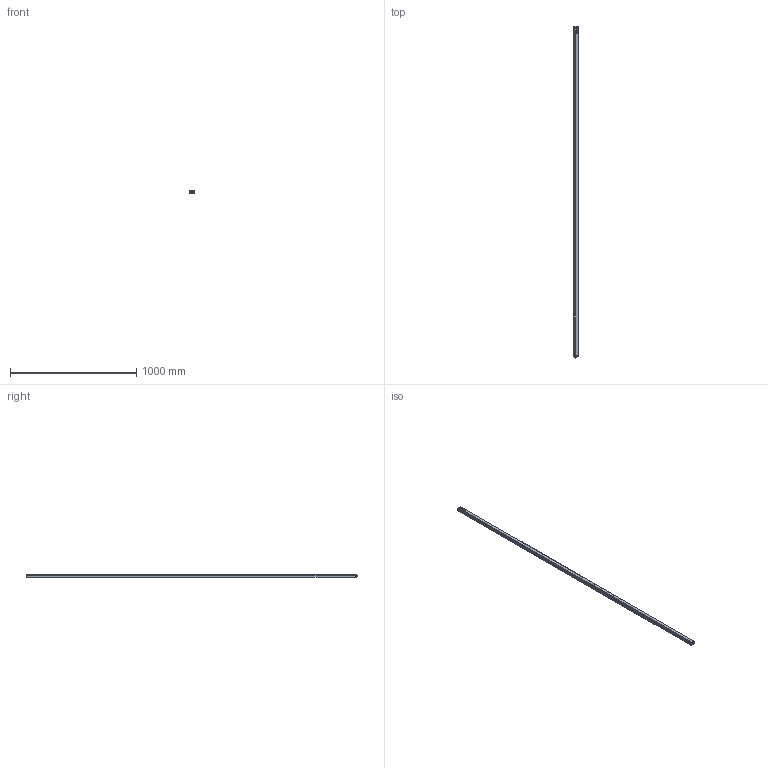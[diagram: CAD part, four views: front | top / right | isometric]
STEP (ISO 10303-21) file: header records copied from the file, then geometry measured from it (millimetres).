
FILE_DESCRIPTION(/* description */ (''),/* implementation_level */ '2;1');
FILE_NAME(/* name */ 'C:\Users\andre\SynologyDrive\Optoscan\Libreria Componenti\00 - Barriere\Polaris sorgente\Polaris_2600_TX.stp',/* time_stamp */ '2021-06-04T11:30:16+02:00',/* author */ ('andre'),/* organization */ (''),/* preprocessor_version */ 'ST-DEVELOPER v18',/* originating_system */ 'Autodesk Inventor 2020',/* authorisation */ '');
FILE_SCHEMA (('AUTOMOTIVE_DESIGN { 1 0 10303 214 3 1 1 }'));
Length unit declared in the file: millimetre
Products named in the file (1): Polaris_2600_TX
Bounding box: 40.5 x 2624.8 x 20.75 mm (x, y, z)
Volume: 514718.1 mm3; surface area: 682032.5 mm2
Topology: 1 solids, 1 shells, 738 faces, 2048 edges, 1320 vertices
Faces by surface type: plane 331, cylinder 207, bspline 115, torus 71, cone 8, sphere 6
Full cylindrical faces by diameter (mm): 1 x8, 2.459 x4, 2.5 x4, 3 x4, 3.5 x4, 5.5 x4, 8 x1, 10.5 x2, 11.75 x9, 12 x1, 12.3 x2, 14.5 x1, 16.7 x1, 17.5 x1
Entity records: 30426 total; most frequent: CARTESIAN_POINT 11243, ORIENTED_EDGE 4082, DIRECTION 3549, EDGE_CURVE 2041, VERTEX_POINT 1321, AXIS2_PLACEMENT_3D 1243, LINE 1063, VECTOR 1063
